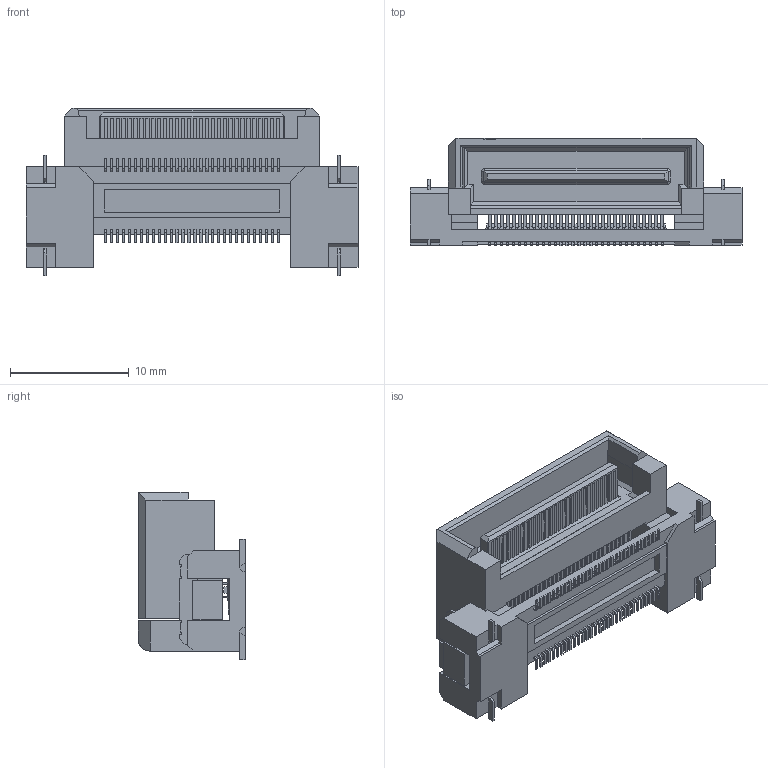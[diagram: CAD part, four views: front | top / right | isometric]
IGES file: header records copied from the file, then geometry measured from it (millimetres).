
Start section: Elysium IGES Interface
Global section: file name: 69HC:\Users\1314\Desktop\temp\回覧用-一時的\DTXX\60\P3D045_DT00-060L.igs; native system: Creo Elements/Direct Modeling 19.0F  14-Feb-2017; preprocessor: Creo Element/Direct IGES_3D V2.2; author: Unknown; organization: Unknown; date: 20170718.111030; units: millimetre
Bounding box: 27.92 x 9.05 x 14.09 mm (x, y, z)
Volume: 1077.2 mm3; surface area: 2518.8 mm2
Topology: 1 solids, 1 shells, 2930 faces, 8168 edges, 5332 vertices
Faces by surface type: bspline 2930
